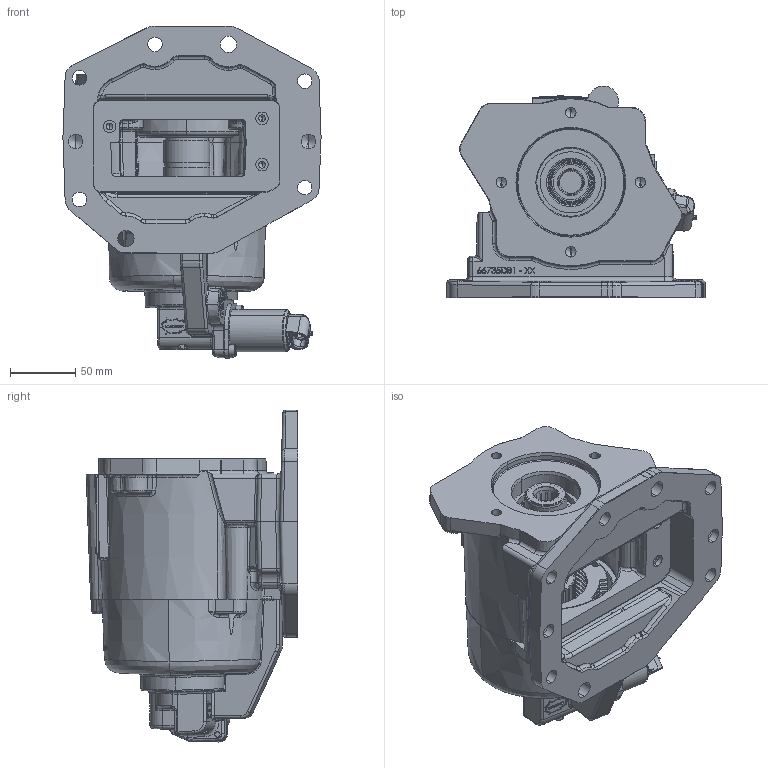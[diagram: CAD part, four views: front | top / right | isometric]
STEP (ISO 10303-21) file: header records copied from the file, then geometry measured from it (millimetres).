
FILE_DESCRIPTION (( 'STEP AP203' ), '1' );
FILE_NAME ('F22-F1312-XX5BAXX.STEP', '2023-04-18T14:15:54', ( '' ), ( '' ), 'SwSTEP 2.0', 'SolidWorks 2021', '' );
FILE_SCHEMA (( 'CONFIG_CONTROL_DESIGN' ));
Length unit declared in the file: inch
Products named in the file (19): 25T65492; SC-301_25T35724; 10T21017; SC-253_12T36878; SC-253_12T36280; 15T64932; 49T64057; 01T66167DB1; 49T64056; 12T39023; 36T62352; F22-F1312-XX5BAXX; 49T36258; SC-253_12T36872; 19T62950; 06T64164; 35T43600; 35M35821M; SC-301_BB_25T37702
Assembly tree (30 placements, depth 2):
  F22-F1312-XX5BAXX
    10T21017
    49T64057
    49T64056
    36T62352
    35M35821M  x2
    12T39023  x2
    19T62950  x2
    SC-301_BB_25T37702  x2
    SC-253_12T36280  x2
    SC-253_12T36872
    35T43600
    01T66167DB1
    06T64164
    SC-253_12T36878
    15T64932
    49T36258  x8
    25T65492
    SC-301_25T35724
Bounding box: 197.37 x 161.75 x 253.82 mm (x, y, z)
Volume: 1628706.6 mm3; surface area: 472011.9 mm2
Topology: 35 solids, 35 shells, 3948 faces, 10195 edges, 6317 vertices
Faces by surface type: bspline 1164, plane 1059, cylinder 898, cone 429, torus 355, sphere 43
Entity records: 167132 total; most frequent: CARTESIAN_POINT 85504, ORIENTED_EDGE 18644, DIRECTION 13413, EDGE_CURVE 9322, VERTEX_POINT 5833, AXIS2_PLACEMENT_3D 5139, EDGE_LOOP 3975, ADVANCED_FACE 3680
